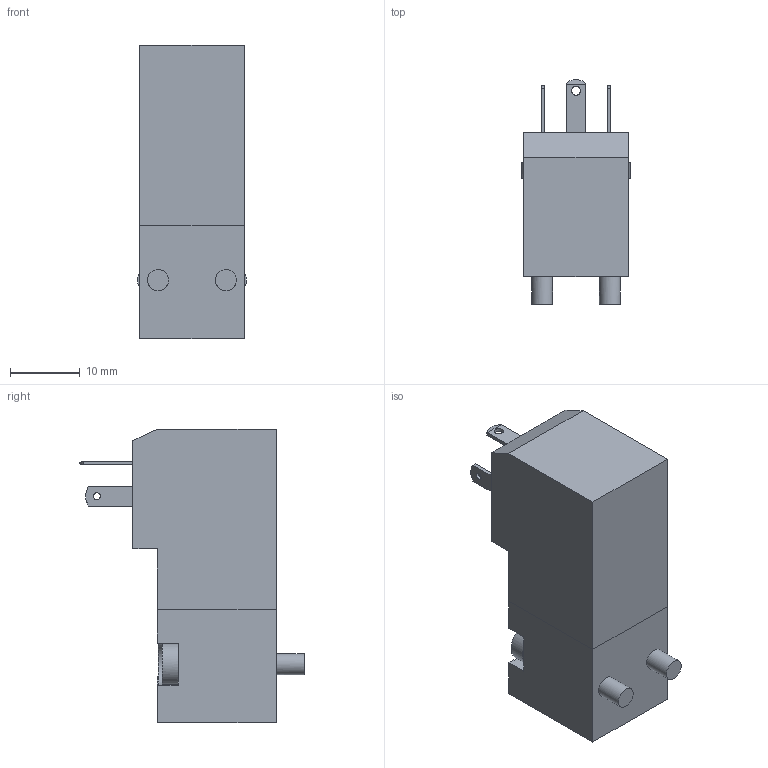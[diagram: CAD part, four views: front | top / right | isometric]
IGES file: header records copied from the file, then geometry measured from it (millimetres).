
Global section: file name: N3#9_#-8; native system: Autodesk Inventor 2014; preprocessor: unknown; author: A. Manieri; organization: Pneumax S.p.A.; date: 20160919.133953; units: millimetre
Bounding box: 15.5 x 32.1 x 42 mm (x, y, z)
Volume: 11548.7 mm3; surface area: 3813.8 mm2
Topology: 1 solids, 1 shells, 96 faces, 245 edges, 162 vertices
Faces by surface type: bspline 96
